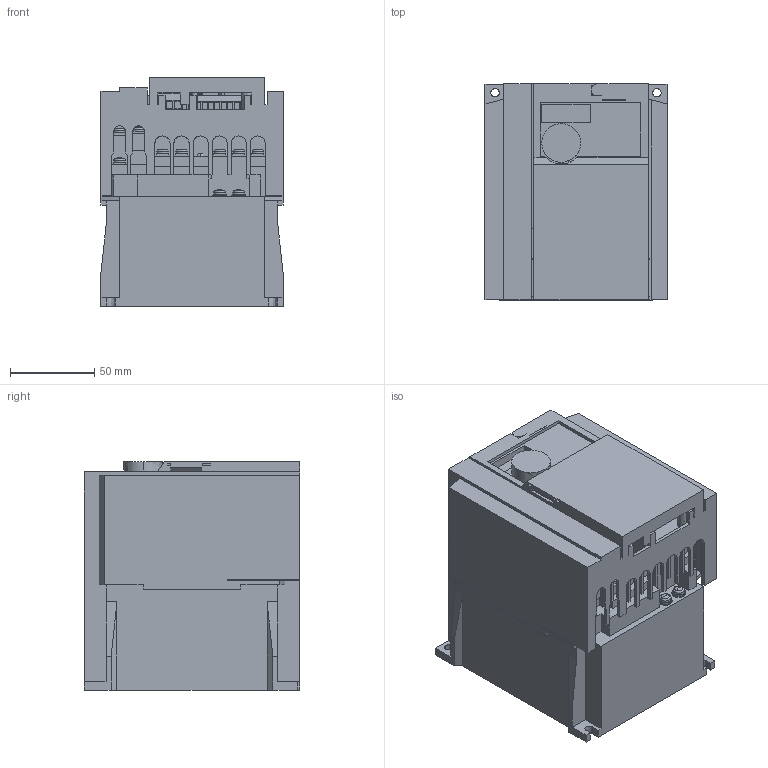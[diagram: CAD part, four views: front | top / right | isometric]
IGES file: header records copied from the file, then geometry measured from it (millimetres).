
Start section:  PTC IGES file: 3d-inv-23_06.igs
Global section: file name: 3d-inv-23_06.igs; native system: Pro/ENGINEER by Parametric Technology Corporation; preprocessor: 2006420; author: HW41538; organization: Unknown; date: 20100907.111224; units: millimetre
Bounding box: 108 x 128 x 135.5 mm (x, y, z)
Volume: 1446673.2 mm3; surface area: 186103.1 mm2
Topology: 1 solids, 16 shells, 972 faces, 2580 edges, 1663 vertices
Faces by surface type: bspline 972
